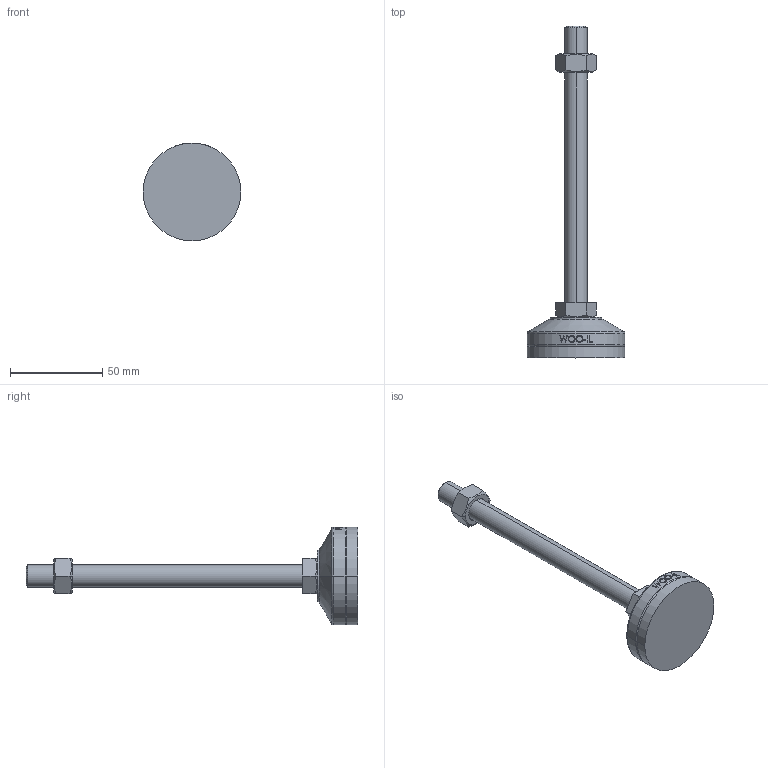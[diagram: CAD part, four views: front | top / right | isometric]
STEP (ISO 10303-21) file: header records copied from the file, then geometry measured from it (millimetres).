
FILE_DESCRIPTION (( 'STEP AP214' ), '1' );
FILE_NAME ('MFR53-M12-150.step', '2021-01-13T05:35:03', ( '' ), ( '' ), 'SwSTEP 2.0', 'SolidWorks 2019', '' );
FILE_SCHEMA (( 'AUTOMOTIVE_DESIGN' ));
Length unit declared in the file: millimetre
Products named in the file (2): MFR53-M12-150
Bounding box: 53 x 180 x 53 mm (x, y, z)
Volume: 62330.6 mm3; surface area: 19520.2 mm2
Topology: 4 solids, 4 shells, 103 faces, 235 edges, 150 vertices
Faces by surface type: plane 49, cylinder 18, bspline 16, cone 14, torus 6
Entity records: 4309 total; most frequent: CARTESIAN_POINT 2036, ORIENTED_EDGE 470, DIRECTION 417, EDGE_CURVE 235, AXIS2_PLACEMENT_3D 159, VERTEX_POINT 150, EDGE_LOOP 115, FACE_OUTER_BOUND 103
